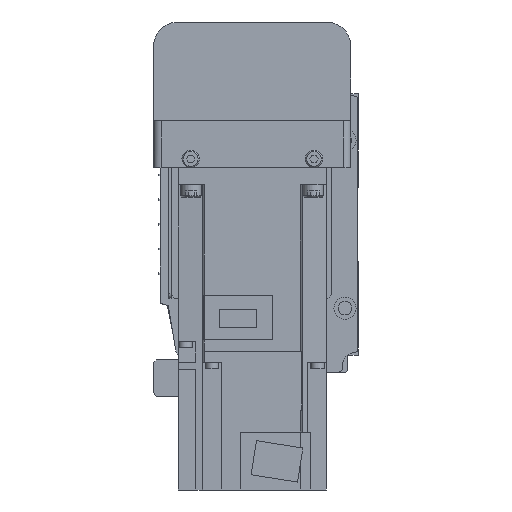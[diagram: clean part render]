
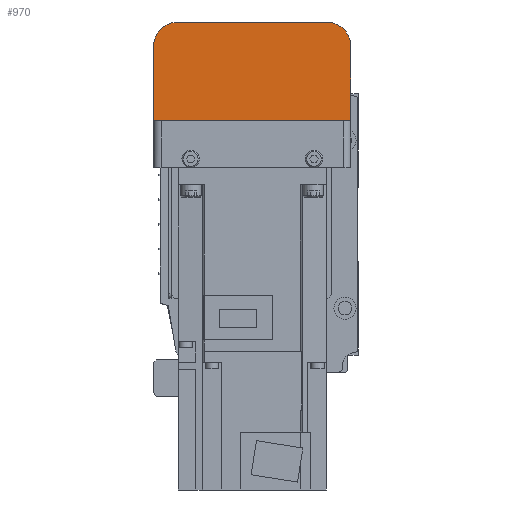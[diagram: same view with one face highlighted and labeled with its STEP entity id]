
A CAD part, left-side view. The second image highlights one B-rep face of the part: STEP entity #970.
In plain terms, the highlighted planar face has unit normal (-1, 0, 0).
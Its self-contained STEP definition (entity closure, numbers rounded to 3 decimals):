
#970 = ADVANCED_FACE( '', ( #2515 ), #2516, .F. );
#2515 = FACE_OUTER_BOUND( '', #4859, .T. );
#2516 = PLANE( '', #4860 );
#4859 = EDGE_LOOP( '', ( #7426, #7427, #7428, #7429, #7430, #7431 ) );
#4860 = AXIS2_PLACEMENT_3D( '', #7432, #7433, #7434 );
#7426 = ORIENTED_EDGE( '', *, *, #13602, .F. );
#7427 = ORIENTED_EDGE( '', *, *, #13603, .F. );
#7428 = ORIENTED_EDGE( '', *, *, #13604, .F. );
#7429 = ORIENTED_EDGE( '', *, *, #13605, .F. );
#7430 = ORIENTED_EDGE( '', *, *, #13606, .F. );
#7431 = ORIENTED_EDGE( '', *, *, #13607, .F. );
#7432 = CARTESIAN_POINT( '', ( -192., 37., 7. ) );
#7433 = DIRECTION( '', ( 1., 0., 0. ) );
#7434 = DIRECTION( '', ( 0., 0., -1. ) );
#13602 = EDGE_CURVE( '', #16179, #16242, #16243, .T. );
#13603 = EDGE_CURVE( '', #16244, #16179, #16245, .T. );
#13604 = EDGE_CURVE( '', #16246, #16244, #16247, .T. );
#13605 = EDGE_CURVE( '', #16248, #16246, #16249, .T. );
#13606 = EDGE_CURVE( '', #16250, #16248, #16251, .T. );
#13607 = EDGE_CURVE( '', #16242, #16250, #16252, .T. );
#16179 = VERTEX_POINT( '', #19930 );
#16242 = VERTEX_POINT( '', #20010 );
#16243 = LINE( '', #20011, #20012 );
#16244 = VERTEX_POINT( '', #20013 );
#16245 = LINE( '', #20014, #20015 );
#16246 = VERTEX_POINT( '', #20016 );
#16247 = CIRCLE( '', #20017, 10. );
#16248 = VERTEX_POINT( '', #20018 );
#16249 = LINE( '', #20019, #20020 );
#16250 = VERTEX_POINT( '', #20021 );
#16251 = CIRCLE( '', #20022, 10. );
#16252 = LINE( '', #20023, #20024 );
#19930 = CARTESIAN_POINT( '', ( -192., 40., -12.1 ) );
#20010 = CARTESIAN_POINT( '', ( -192., -40., -12.1 ) );
#20011 = CARTESIAN_POINT( '', ( -192., 50., -12.1 ) );
#20012 = VECTOR( '', #24607, 1000. );
#20013 = CARTESIAN_POINT( '', ( -192., 40., -42. ) );
#20014 = CARTESIAN_POINT( '', ( -192., 40., -42. ) );
#20015 = VECTOR( '', #24608, 1000. );
#20016 = CARTESIAN_POINT( '', ( -192., 30., -52. ) );
#20017 = AXIS2_PLACEMENT_3D( '', #24609, #24610, #24611 );
#20018 = CARTESIAN_POINT( '', ( -192., -30., -52. ) );
#20019 = CARTESIAN_POINT( '', ( -192., -30., -52. ) );
#20020 = VECTOR( '', #24612, 1000. );
#20021 = CARTESIAN_POINT( '', ( -192., -40., -42. ) );
#20022 = AXIS2_PLACEMENT_3D( '', #24613, #24614, #24615 );
#20023 = CARTESIAN_POINT( '', ( -192., -40., -12.1 ) );
#20024 = VECTOR( '', #24616, 1000. );
#24607 = DIRECTION( '', ( 0., -1., 0. ) );
#24608 = DIRECTION( '', ( 0., 0., 1. ) );
#24609 = CARTESIAN_POINT( '', ( -192., 30., -42. ) );
#24610 = DIRECTION( '', ( 1., 0., 0. ) );
#24611 = DIRECTION( '', ( 0., 0., -1. ) );
#24612 = DIRECTION( '', ( 0., 1., 0. ) );
#24613 = CARTESIAN_POINT( '', ( -192., -30., -42. ) );
#24614 = DIRECTION( '', ( 1., 0., 0. ) );
#24615 = DIRECTION( '', ( 0., 0., -1. ) );
#24616 = DIRECTION( '', ( 0., 0., -1. ) );
